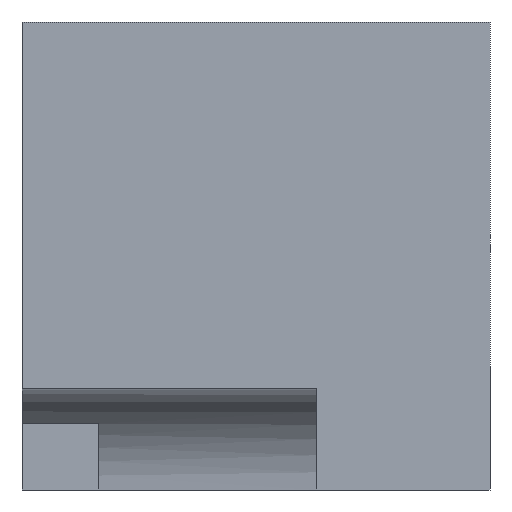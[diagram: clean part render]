
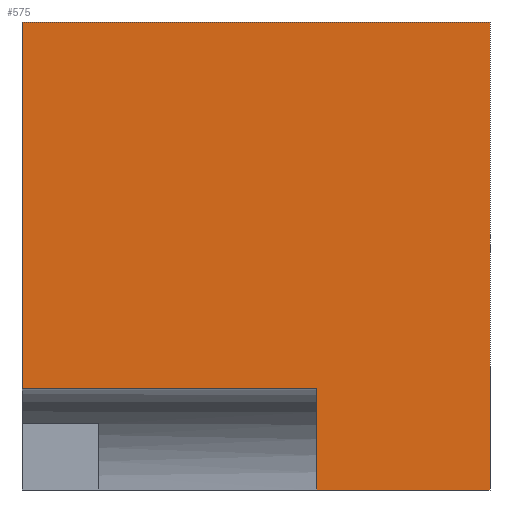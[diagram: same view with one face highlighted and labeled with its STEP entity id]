
A CAD part, front view. The second image highlights one B-rep face of the part: STEP entity #575.
In plain terms, the highlighted planar face has unit normal (0, -1, 0).
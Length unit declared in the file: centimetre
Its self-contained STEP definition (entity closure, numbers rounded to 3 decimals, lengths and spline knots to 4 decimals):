
#6 = VECTOR ( 'NONE', #416, 100. ) ;
#19 = VERTEX_POINT ( 'NONE', #627 ) ;
#59 = LINE ( 'NONE', #236, #6 ) ;
#105 = DIRECTION ( 'NONE',  ( 0., 0., -1. ) ) ;
#156 = VECTOR ( 'NONE', #234, 100. ) ;
#157 = VERTEX_POINT ( 'NONE', #334 ) ;
#194 = DIRECTION ( 'NONE',  ( 1., 0., 0. ) ) ;
#234 = DIRECTION ( 'NONE',  ( 0., 0., 1. ) ) ;
#236 = CARTESIAN_POINT ( 'NONE',  ( 629.8312, 0., 216.8562 ) ) ;
#281 = DIRECTION ( 'NONE',  ( 0., 0., 1. ) ) ;
#287 = CARTESIAN_POINT ( 'NONE',  ( 1000., 0., 1000. ) ) ;
#288 = CARTESIAN_POINT ( 'NONE',  ( 0., 0., 1000. ) ) ;
#294 = EDGE_LOOP ( 'NONE', ( #932, #954, #1073, #1021, #386, #649 ) ) ;
#305 = VERTEX_POINT ( 'NONE', #288 ) ;
#313 = CARTESIAN_POINT ( 'NONE',  ( 1000., 0., 1000. ) ) ;
#334 = CARTESIAN_POINT ( 'NONE',  ( 629.8312, 0., 0. ) ) ;
#347 = VECTOR ( 'NONE', #194, 100. ) ;
#364 = EDGE_CURVE ( 'NONE', #157, #1055, #737, .T. ) ;
#379 = EDGE_CURVE ( 'NONE', #305, #418, #1036, .T. ) ;
#386 = ORIENTED_EDGE ( 'NONE', *, *, #694, .F. ) ;
#416 = DIRECTION ( 'NONE',  ( 1., 0., 0. ) ) ;
#418 = VERTEX_POINT ( 'NONE', #313 ) ;
#438 = CARTESIAN_POINT ( 'NONE',  ( 1000., 0., 0. ) ) ;
#460 = LINE ( 'NONE', #926, #704 ) ;
#543 = EDGE_CURVE ( 'NONE', #157, #581, #1052, .T. ) ;
#552 = CARTESIAN_POINT ( 'NONE',  ( 0., 0., 1000. ) ) ;
#575 = ADVANCED_FACE ( 'NONE', ( #767 ), #950, .F. ) ;
#581 = VERTEX_POINT ( 'NONE', #1102 ) ;
#601 = VECTOR ( 'NONE', #739, 100. ) ;
#609 = VECTOR ( 'NONE', #771, 100. ) ;
#627 = CARTESIAN_POINT ( 'NONE',  ( 0., 0., 216.8562 ) ) ;
#647 = EDGE_CURVE ( 'NONE', #305, #19, #460, .T. ) ;
#649 = ORIENTED_EDGE ( 'NONE', *, *, #379, .F. ) ;
#694 = EDGE_CURVE ( 'NONE', #418, #1055, #734, .T. ) ;
#704 = VECTOR ( 'NONE', #105, 100. ) ;
#734 = LINE ( 'NONE', #287, #601 ) ;
#737 = LINE ( 'NONE', #1008, #347 ) ;
#739 = DIRECTION ( 'NONE',  ( 0., 0., -1. ) ) ;
#767 = FACE_OUTER_BOUND ( 'NONE', #294, .T. ) ;
#771 = DIRECTION ( 'NONE',  ( 1., 0., 0. ) ) ;
#855 = CARTESIAN_POINT ( 'NONE',  ( 0., 0., 1000. ) ) ;
#926 = CARTESIAN_POINT ( 'NONE',  ( 0., 0., 1000. ) ) ;
#932 = ORIENTED_EDGE ( 'NONE', *, *, #647, .T. ) ;
#950 = PLANE ( 'NONE',  #1011 ) ;
#954 = ORIENTED_EDGE ( 'NONE', *, *, #1007, .T. ) ;
#994 = DIRECTION ( 'NONE',  ( 0., 1., 0. ) ) ;
#1007 = EDGE_CURVE ( 'NONE', #19, #581, #59, .T. ) ;
#1008 = CARTESIAN_POINT ( 'NONE',  ( 0., 0., 0. ) ) ;
#1011 = AXIS2_PLACEMENT_3D ( 'NONE', #552, #994, #281 ) ;
#1021 = ORIENTED_EDGE ( 'NONE', *, *, #364, .T. ) ;
#1036 = LINE ( 'NONE', #855, #609 ) ;
#1038 = CARTESIAN_POINT ( 'NONE',  ( 629.8312, 0., 1000. ) ) ;
#1052 = LINE ( 'NONE', #1038, #156 ) ;
#1055 = VERTEX_POINT ( 'NONE', #438 ) ;
#1073 = ORIENTED_EDGE ( 'NONE', *, *, #543, .F. ) ;
#1102 = CARTESIAN_POINT ( 'NONE',  ( 629.8312, 0., 216.8562 ) ) ;
